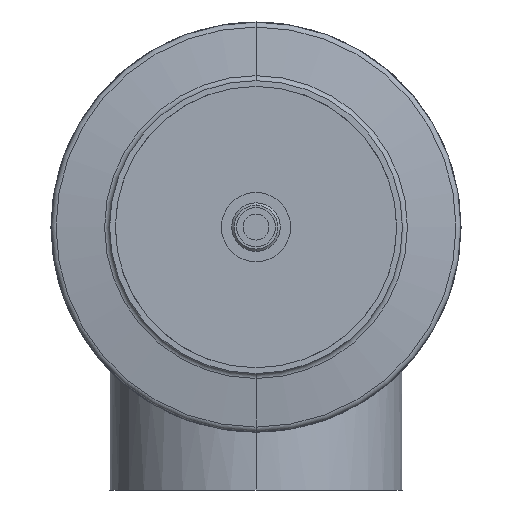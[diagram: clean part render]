
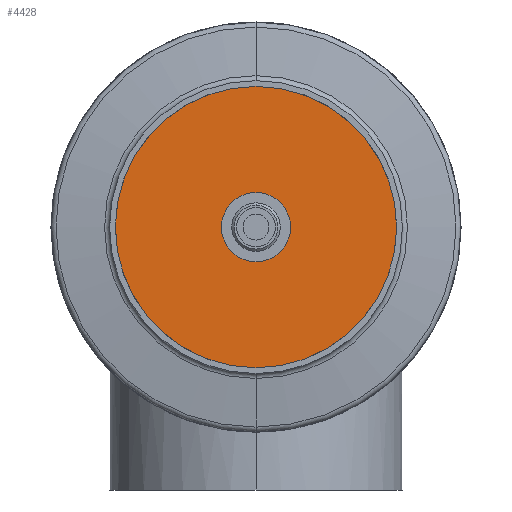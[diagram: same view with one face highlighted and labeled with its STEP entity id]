
A CAD part, front view. The second image highlights one B-rep face of the part: STEP entity #4428.
In plain terms, the highlighted planar face has unit normal (0, -1, 0).
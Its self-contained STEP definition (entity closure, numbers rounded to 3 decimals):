
#176 = VERTEX_POINT ( 'NONE', #2130 ) ;
#194 = VERTEX_POINT ( 'NONE', #2257 ) ;
#217 = EDGE_CURVE ( 'NONE', #194, #176, #2349, .T. ) ;
#1027 = VERTEX_POINT ( 'NONE', #5796 ) ;
#1049 = EDGE_CURVE ( 'NONE', #1144, #1027, #1320, .T. ) ;
#1144 = VERTEX_POINT ( 'NONE', #1882 ) ;
#1320 = CIRCLE ( 'NONE', #1321, 60. ) ;
#1321 = AXIS2_PLACEMENT_3D ( 'NONE', #1322, #1323, #1324 ) ;
#1322 = CARTESIAN_POINT ( 'NONE',  ( 0., -80., 0. ) ) ;
#1323 = DIRECTION ( 'NONE',  ( 0., -1., 0. ) ) ;
#1324 = DIRECTION ( 'NONE',  ( 0., 0., -1. ) ) ;
#1584 = ORIENTED_EDGE ( 'NONE', *, *, #217, .T. ) ;
#1882 = CARTESIAN_POINT ( 'NONE',  ( 0., -80., 60. ) ) ;
#2086 = ORIENTED_EDGE ( 'NONE', *, *, #5819, .T. ) ;
#2130 = CARTESIAN_POINT ( 'NONE',  ( 0., -80., 260. ) ) ;
#2257 = CARTESIAN_POINT ( 'NONE',  ( 0., -80., -260. ) ) ;
#2349 = CIRCLE ( 'NONE', #2350, 260. ) ;
#2350 = AXIS2_PLACEMENT_3D ( 'NONE', #2351, #2352, #2353 ) ;
#2351 = CARTESIAN_POINT ( 'NONE',  ( 0., -80., 0. ) ) ;
#2352 = DIRECTION ( 'NONE',  ( 0., -1., 0. ) ) ;
#2353 = DIRECTION ( 'NONE',  ( 0., 0., -1. ) ) ;
#2588 = EDGE_LOOP ( 'NONE', ( #2086, #1584 ) ) ;
#2824 = ORIENTED_EDGE ( 'NONE', *, *, #1049, .F. ) ;
#3335 = EDGE_CURVE ( 'NONE', #1027, #1144, #4741, .T. ) ;
#3693 = ORIENTED_EDGE ( 'NONE', *, *, #3335, .F. ) ;
#4196 = EDGE_LOOP ( 'NONE', ( #3693, #2824 ) ) ;
#4428 = ADVANCED_FACE ( 'NONE', ( #6100, #6101 ), #6102, .T. ) ;
#4741 = CIRCLE ( 'NONE', #4742, 60. ) ;
#4742 = AXIS2_PLACEMENT_3D ( 'NONE', #4743, #4744, #4745 ) ;
#4743 = CARTESIAN_POINT ( 'NONE',  ( 0., -80., 0. ) ) ;
#4744 = DIRECTION ( 'NONE',  ( 0., -1., 0. ) ) ;
#4745 = DIRECTION ( 'NONE',  ( 0., 0., -1. ) ) ;
#5796 = CARTESIAN_POINT ( 'NONE',  ( 0., -80., -60. ) ) ;
#5819 = EDGE_CURVE ( 'NONE', #176, #194, #7156, .T. ) ;
#6100 = FACE_BOUND ( 'NONE', #4196, .T. ) ;
#6101 = FACE_OUTER_BOUND ( 'NONE', #2588, .T. ) ;
#6102 = PLANE ( 'NONE',  #6103 ) ;
#6103 = AXIS2_PLACEMENT_3D ( 'NONE', #6104, #6105, #6106 ) ;
#6104 = CARTESIAN_POINT ( 'NONE',  ( 0., -80., 0. ) ) ;
#6105 = DIRECTION ( 'NONE',  ( 0., -1., 0. ) ) ;
#6106 = DIRECTION ( 'NONE',  ( 0., 0., -1. ) ) ;
#7156 = CIRCLE ( 'NONE', #7157, 260. ) ;
#7157 = AXIS2_PLACEMENT_3D ( 'NONE', #7158, #7159, #7160 ) ;
#7158 = CARTESIAN_POINT ( 'NONE',  ( 0., -80., 0. ) ) ;
#7159 = DIRECTION ( 'NONE',  ( 0., -1., 0. ) ) ;
#7160 = DIRECTION ( 'NONE',  ( 0., 0., -1. ) ) ;
